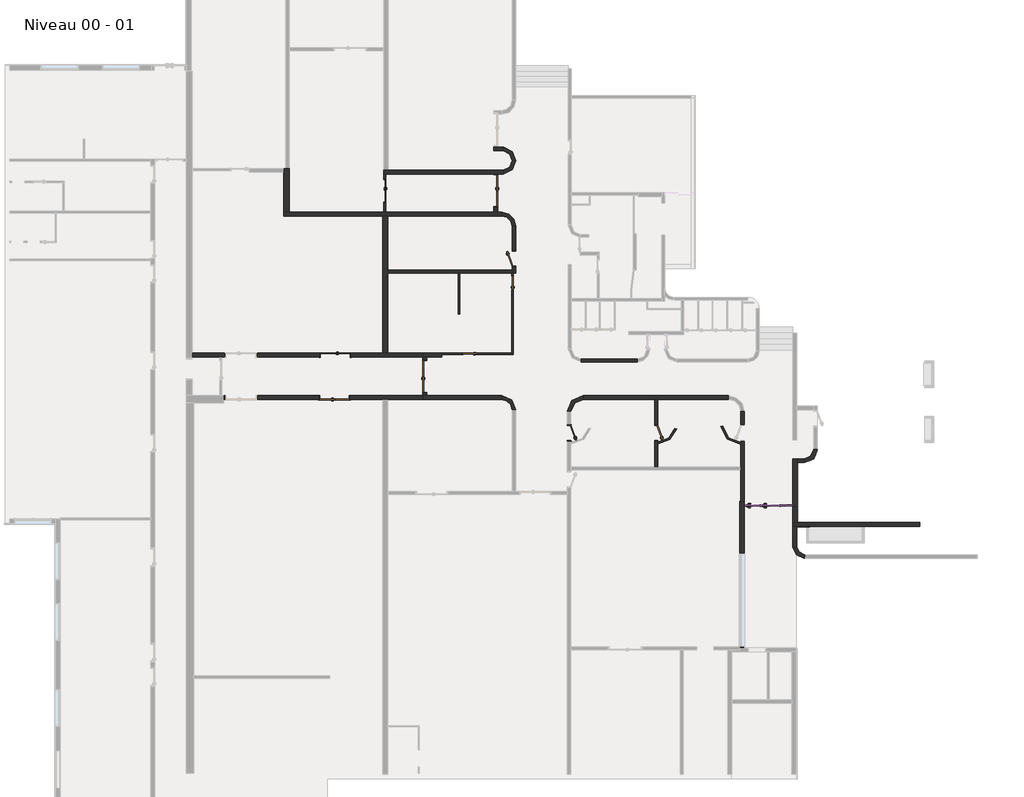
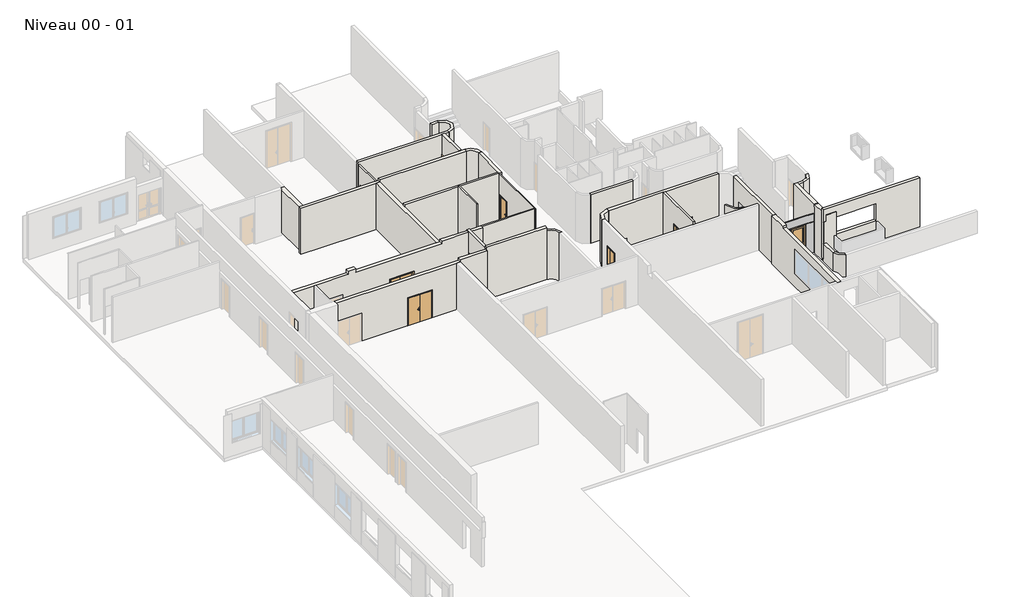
# One storey, part 5 of 8: 36 walls, 12 doors, 2 plates.
"""IFC4 building model written with IfcOpenShell, lengths in millimetres."""

from ifc_helpers import new_model, si_unit, point, frame, frame_2d, origin, place, context, project, spatial, polyline, circle_curve, trimmed, segment, composite_curve, outline, extrude, faceted_brep, transform, mapped, element, save
from components import door_d8181ab2, door_0234ae46, door_0ca0b57b, door_cb0b5031, door_c9c37e9f, double_r_1_23m_x_2_04m_7282032c, double_r_1_63m_x_2_04m_f9c3b69e, double_r_1_73m_x_2_10m_c7e8f5c4, plate_0f307522, plate_cfa962c9

model = new_model("IFC4")

# Units and contexts
model_context = context("Model", 3, world=origin())
ifc_project = project(units=[si_unit("LENGTHUNIT", "METRE", prefix="MILLI")], contexts=[model_context])

# Site, building, storey
site = spatial("IfcSite", under=ifc_project)
building = spatial("IfcBuilding", under=site)
storey = spatial("IfcBuildingStorey", under=building, Name="Niveau 00 - 01", Elevation=253.3082742)

# Doors
placement = place(None, origin())
door_shape = door_d8181ab2(model_context)
element("IfcDoor", 1, ObjectType="Simple vitrée : Simple vitrée", at=placement, inside=storey, context=model_context, shape_type="MappedRepresentation", body=[
    mapped(door_shape, transform((-5106.4539187, -19897.6865666, 253.3082742), x_axis=(-1.0, 0.0, 0.0), y_axis=(0.0, -1.0, 0.0), z_axis=(0.0, 0.0, 1.0))),
])
door_2_shape = door_0234ae46(model_context)
element("IfcDoor", 2, ObjectType="@_Int. Simple : @_PP (0.73m x 2.04m)", at=placement, inside=storey, context=model_context, shape_type="MappedRepresentation", body=[
    mapped(door_2_shape, transform((-18923.9891727, -7958.7412448, 253.3082742), x_axis=(0.0, 1.0, 0.0), y_axis=(-1.0, 0.0, 0.0), z_axis=(0.0, 0.0, 1.0))),
])
element("IfcDoor", 3, ObjectType="@_Int. Simple : @_PP (0.73m x 2.04m)", at=placement, inside=storey, context=model_context, shape_type="MappedRepresentation", body=[
    mapped(door_2_shape, transform((-21243.9891766, -11794.0543062, 253.3082742), x_axis=(-1.0, -1.2939471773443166e-11, 0.0), y_axis=(1.2939471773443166e-11, -1.0, 0.0), z_axis=(0.0, 0.0, 1.0))),
])
door_3_shape = door_0ca0b57b(model_context)
element("IfcDoor", 4, ObjectType="@_Int. Simple : @_PP (0.83m x 2.04m)", at=placement, inside=storey, context=model_context, shape_type="MappedRepresentation", body=[
    mapped(door_3_shape, transform((-18843.9891727, -6733.7412448, 253.3082742), x_axis=(0.0, -1.0, 0.0), y_axis=(1.0, 0.0, 0.0), z_axis=(0.0, 0.0, 1.0))),
])
element("IfcDoor", 5, ObjectType="@_Int. Simple : @_PP (0.83m x 2.04m)", at=placement, inside=storey, context=model_context, shape_type="MappedRepresentation", body=[
    mapped(door_3_shape, transform((-15897.6697002, -15984.0885527, 253.3082742), x_axis=(0.0, 1.0, 0.0), y_axis=(-1.0, 0.0, 0.0), z_axis=(0.0, 0.0, 1.0))),
])
door_4_shape = door_cb0b5031(model_context)
element("IfcDoor", 6, ObjectType="@_Int. Simple : @_PP (0.83m x 2.04m)", at=placement, inside=storey, context=model_context, shape_type="MappedRepresentation", body=[
    mapped(door_4_shape, transform((-11239.5180735, -15984.0885527, 253.3082742), x_axis=(0.0, 1.0, 0.0), y_axis=(-1.0, 0.0, 0.0), z_axis=(0.0, 0.0, 1.0))),
])
door_5_shape = door_c9c37e9f(model_context)
element("IfcDoor", 7, ObjectType="Simple vitrée : Simple vitrée", at=placement, inside=storey, context=model_context, shape_type="MappedRepresentation", body=[
    mapped(door_5_shape, transform((-6060.037753, -19897.6865666, 253.3082742), x_axis=(-1.0, 0.0, 0.0), y_axis=(0.0, -1.0, 0.0), z_axis=(0.0, 0.0, 1.0))),
])
double_r_1_23m_x_2_04m_shape = double_r_1_23m_x_2_04m_7282032c(model_context)
element("IfcDoor", 8, ObjectType="Double (R) : 1.23m x 2.04m", at=placement, inside=storey, context=model_context, shape_type="MappedRepresentation", body=[
    mapped(double_r_1_23m_x_2_04m_shape, transform((-25753.9891729, -3073.7412451, 253.3082742), x_axis=(0.0, 1.0, 0.0), y_axis=(-1.0, 0.0, 0.0), z_axis=(0.0, 0.0, 1.0))),
])
double_r_1_63m_x_2_04m_shape = double_r_1_63m_x_2_04m_f9c3b69e(model_context)
element("IfcDoor", 9, ObjectType="Double (R) : 1.63m x 2.04m", at=placement, inside=storey, context=model_context, shape_type="MappedRepresentation", body=[
    mapped(double_r_1_63m_x_2_04m_shape, transform((-28393.9891711, -11859.0543063, 253.3082742), x_axis=(1.0, 6.1910359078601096e-12, 0.0), y_axis=(-6.1910359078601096e-12, 1.0, 0.0), z_axis=(0.0, 0.0, 1.0))),
])
element("IfcDoor", 10, ObjectType="Double (R) : 1.63m x 2.04m", at=placement, inside=storey, context=model_context, shape_type="MappedRepresentation", body=[
    mapped(double_r_1_63m_x_2_04m_shape, transform((-28433.9891729, -14129.1151366, 253.3082742), x_axis=(-1.0, 0.0, 0.0), y_axis=(0.0, -1.0, 0.0), z_axis=(0.0, 0.0, 1.0))),
])
double_r_1_73m_x_2_10m_shape = double_r_1_73m_x_2_10m_c7e8f5c4(model_context)
element("IfcDoor", 11, ObjectType="Double (R) : 1.73m x 2.10m", at=placement, inside=storey, context=model_context, shape_type="MappedRepresentation", body=[
    mapped(double_r_1_73m_x_2_10m_shape, transform((-23607.6330901, -12994.0847214, 253.3082742), x_axis=(0.0, -1.0, 0.0), y_axis=(1.0, 0.0, 0.0), z_axis=(0.0, 0.0, 1.0))),
])
element("IfcDoor", 12, ObjectType="Double (R) : 1.73m x 2.10m", at=placement, inside=storey, context=model_context, shape_type="MappedRepresentation", body=[
    mapped(double_r_1_73m_x_2_10m_shape, transform((-19823.4631762, -3068.7412458, 253.3082742), x_axis=(0.0, 1.0, 0.0), y_axis=(-1.0, 0.0, 0.0), z_axis=(0.0, 0.0, 1.0))),
])

# Plates
plate_shape = plate_0f307522(model_context)
element("IfcPlate", 13, ObjectType="Panneau système : Vitré", at=placement, inside=storey, context=model_context, shape_type="MappedRepresentation", body=[
    mapped(plate_shape, transform((-4271.4539206, -19897.6865666, 303.3082742), x_axis=(-1.0, 0.0, 0.0), y_axis=(0.0, -1.0, 0.0), z_axis=(0.0, 0.0, 1.0))),
])
plate_2_shape = plate_cfa962c9(model_context)
element("IfcPlate", 14, ObjectType="Panneau système : Vitré", at=placement, inside=storey, context=model_context, shape_type="MappedRepresentation", body=[
    mapped(plate_2_shape, transform((-5225.0377549, -19897.6865666, 2631.6416076), x_axis=(-1.0, 0.0, 0.0), y_axis=(0.0, -1.0, 0.0), z_axis=(0.0, 0.0, 1.0))),
])

# Walls
element("IfcWall", 15, ObjectType="Mur EXE 200- Hach", at=placement, inside=storey, context=model_context, shape_type="SweptSolid", body=[
    extrude(outline(composite_curve([segment(polyline([(-3943.9891777, -22148.0711601), (-3743.9891777, -22126.3642288)]), True, "CONTINUOUS"), segment(trimmed(circle_curve(frame_2d((-3217.2166653, -22000.4141736)), 541.6204356), [point((-3743.9891777, -22126.3642288))], [point((-3316.4075603, -22532.8743717))], True, "CARTESIAN"), True, "CONTINUOUS"), segment(polyline([(-3316.4075603, -22532.8743717), (-3333.4187679, -22732.8743717)]), True, "CONTINUOUS"), segment(trimmed(circle_curve(frame_2d((-3217.2166653, -22000.4141736)), 741.6204356), [point((-3333.4187679, -22732.8743717))], [point((-3943.9891777, -22148.0711601))], False, "CARTESIAN"), True, "CONTINUOUS")], self_intersect=False)), frame((0.0, 0.0, -50.0), z_axis=(0.0, 0.0, 1.0), x_axis=(1.0, 0.0, 0.0)), (0.0, 0.0, 1.0), 1652.3356406),
])
element("IfcWall", 16, ObjectType="Mur EXE 200- Hach", at=placement, inside=storey, context=model_context, shape_type="SweptSolid", body=[
    extrude(outline(polyline([(-3943.9891777, -22148.0711601), (-3943.9891777, -21006.2530701), (-3743.9891777, -21006.2530701), (-3743.9891777, -22126.3642288), (-3943.9891777, -22148.0711601)])), frame((0.0, 0.0, 253.3082742), z_axis=(0.0, 0.0, 1.0), x_axis=(1.0, 0.0, 0.0)), (0.0, 0.0, 1.0), 1349.0273663),
])
element("IfcWall", 17, ObjectType="Mur EXE 40- Hach", at=placement, inside=storey, context=model_context, shape_type="Brep", body=[
    faceted_brep([(-3048.9891744, -21006.2530701, 463.3082742), (-3745.9483345, -21006.2530701, 463.3082742), (-3745.9483345, -21006.2530701, 1602.3356406), (-3943.9891777, -21006.2530701, 1602.3356406), (-3943.9891777, -21006.2530701, 3200.0), (-3745.9483345, -21006.2530701, 3200.0), (-3745.9483345, -21006.2530701, 3673.0838649), (-3048.9891744, -21006.2530701, 3673.0838649), (-3745.9483345, -21046.2530701, 463.3082742), (-3048.9891744, -21046.2530701, 463.3082742), (-3048.9891744, -21046.2530701, 3673.0838649), (-3745.9483345, -21046.2530701, 3673.0838649), (-3745.9483345, -21046.2530701, 3200.0), (-3943.9891777, -21046.2530701, 3200.0), (-3943.9891777, -21046.2530701, 1602.3356406), (-3745.9483345, -21046.2530701, 1602.3356406), (-3745.9483345, -21046.2530701, 1293.3082742), (-3745.9483345, -21046.2530701, 1093.3082742)], [[[0, 1, 2, 3, 4, 5, 6, 7]], [[8, 9, 10, 11, 12, 13, 14, 15, 16, 17]], [[1, 0, 9, 8]], [[2, 1, 8, 17, 16, 15]], [[7, 6, 11, 10]], [[0, 7, 10, 9]], [[3, 2, 15, 14]], [[4, 3, 14, 13]], [[5, 4, 13, 12]], [[6, 5, 12, 11]]]),
])
element("IfcWall", 18, ObjectType="@_Générique - Int. 100 mm", at=placement, inside=storey, context=model_context, shape_type="SweptSolid", body=[
    extrude(outline(polyline([(-2168.7412456, 3703.3082742), (-2168.7412456, 253.3082742), (-2423.7412451, 253.3082742), (-2423.7412451, 2328.3082742), (-3723.7412451, 2328.3082742), (-3723.7412451, 253.3082742), (-4218.7412446, 253.3082742), (-4218.7412446, 3703.3082742), (-2168.7412456, 3703.3082742)])), frame((-25803.9891729, 0.0, 0.0), z_axis=(1.0, 0.0, 0.0), x_axis=(0.0, 1.0, 0.0)), (0.0, 0.0, 1.0), 100.0),
])
element("IfcWall", 19, ObjectType="@_Générique - Int. 100 mm", at=placement, inside=storey, context=model_context, shape_type="SweptSolid", body=[
    extrude(outline(composite_curve([segment(polyline([(-10248.106745, -15776.0691401), (-10151.0071635, -15799.9787884)]), True, "CONTINUOUS"), segment(trimmed(circle_curve(frame_2d((-11180.262727, -15546.5365166)), 1060.0), [point((-10151.0071635, -15799.9787884))], [point((-11164.5180735, -16606.419579))], False, "CARTESIAN"), True, "CONTINUOUS"), segment(polyline([(-11164.5180735, -16606.419579), (-11164.5180735, -16506.4073964)]), True, "CONTINUOUS"), segment(trimmed(circle_curve(frame_2d((-11180.262727, -15546.5365166)), 960.0), [point((-11164.5180735, -16506.4073964))], [point((-10248.106745, -15776.0691401))], True, "CARTESIAN"), True, "CONTINUOUS")], self_intersect=False)), frame((0.0, 0.0, 253.3082742), z_axis=(0.0, 0.0, 1.0), x_axis=(1.0, 0.0, 0.0)), (0.0, 0.0, 1.0), 2350.0),
])
element("IfcWall", 20, ObjectType="@_Générique - Int. 100 mm", at=placement, inside=storey, context=model_context, shape_type="SweptSolid", body=[
    extrude(outline(composite_curve([segment(polyline([(-7785.877963, -15669.0656375), (-7686.3693182, -15659.1646474)]), True, "CONTINUOUS"), segment(trimmed(circle_curve(frame_2d((-6731.0863278, -15564.1151425)), 960.0), [point((-7686.3693182, -15659.1646474))], [point((-6731.0863278, -16524.1151425))], True, "CARTESIAN"), True, "CONTINUOUS"), segment(polyline([(-6731.0863278, -16524.1151425), (-6731.0863278, -16624.1151425)]), True, "CONTINUOUS"), segment(trimmed(circle_curve(frame_2d((-6731.0863278, -15564.1151425)), 1060.0), [point((-6731.0863278, -16624.1151425))], [point((-7785.877963, -15669.0656375))], False, "CARTESIAN"), True, "CONTINUOUS")], self_intersect=False)), frame((0.0, 0.0, 253.3082742), z_axis=(0.0, 0.0, 1.0), x_axis=(1.0, 0.0, 0.0)), (0.0, 0.0, 1.0), 2350.0),
])
element("IfcWall", 21, ObjectType="@_Générique - Int. 200 mm", at=placement, inside=storey, context=model_context, shape_type="Brep", body=[
    faceted_brep([(-23707.6330901, -14029.1151366, 253.3082742), (-23707.6330901, -14029.1151366, 3921.8727639), (-23707.6330901, -11749.0543062, 3921.8727639), (-23707.6330901, -11749.0543062, 3871.8727639), (-23707.6330901, -11959.0543062, 3871.8727639), (-23707.6330901, -11959.0543062, 253.3082742), (-23707.6330901, -11969.0543062, 253.3082742), (-23707.6330901, -12094.0847214, 253.3082742), (-23707.6330901, -12094.0847214, 2388.3082742), (-23707.6330901, -13894.0847214, 2388.3082742), (-23707.6330901, -13894.0847214, 253.3082742), (-23507.6330901, -14029.1151366, 3921.8727639), (-23507.6330901, -14029.1151366, 253.3082742), (-23507.6330901, -13894.0847214, 253.3082742), (-23507.6330901, -13894.0847214, 2388.3082742), (-23507.6330901, -12094.0847214, 2388.3082742), (-23507.6330901, -12094.0847214, 253.3082742), (-23507.6330901, -11959.0543062, 253.3082742), (-23507.6330901, -11959.0543062, 3871.8727639), (-23507.6330901, -11749.0543062, 3871.8727639), (-23507.6330901, -11749.0543062, 3921.8727639)], [[[0, 1, 2, 3, 4, 5, 6, 7, 8, 9, 10]], [[11, 12, 13, 14, 15, 16, 17, 18, 19, 20]], [[12, 0, 10, 13]], [[5, 17, 16, 7, 6]], [[1, 0, 12, 11]], [[2, 1, 11, 20]], [[9, 14, 13, 10]], [[15, 8, 7, 16]], [[8, 15, 14, 9]], [[19, 18, 4, 3]], [[17, 5, 4, 18]], [[2, 20, 19, 3]]]),
])
element("IfcWall", 22, ObjectType="@_Générique - Int. 100 mm", at=placement, inside=storey, context=model_context, shape_type="SweptSolid", body=[
    extrude(outline(polyline([(-21829.1642567, -9653.7412448), (-21829.1642567, -7468.7412448), (-21729.1642567, -7468.7412448), (-21729.1642567, -9653.7412448), (-21829.1642567, -9653.7412448)])), frame((0.0, 0.0, 253.3082742), z_axis=(0.0, 0.0, 1.0), x_axis=(1.0, 0.0, 0.0)), (0.0, 0.0, 1.0), 3668.5644896),
])
element("IfcWall", 23, ObjectType="Ext. Voile BA 150", at=placement, inside=storey, context=model_context, shape_type="SweptSolid", body=[
    extrude(outline(polyline([(-15243.9891693, -12079.1151389), (-12247.9692093, -12079.1151389), (-12247.9692093, -12229.1151389), (-15243.9891693, -12229.1151389), (-15243.9891693, -12079.1151389)])), frame((0.0, 0.0, 253.3082742), z_axis=(0.0, 0.0, 1.0), x_axis=(1.0, 0.0, 0.0)), (0.0, 0.0, 1.0), 3618.5644896),
])
element("IfcWall", 24, ObjectType="Ext. Voile BA 150", at=placement, inside=storey, context=model_context, shape_type="Brep", body=[
    faceted_brep([(-11314.5180735, -14229.1151361, 3871.8727639), (-11314.5180735, -14229.1151361, 253.3082742), (-11314.5180735, -15569.0885527, 253.3082742), (-11314.5180735, -15569.0885527, 2328.3082742), (-11314.5180735, -16469.0885527, 2328.3082742), (-11314.5180735, -16469.0885527, 253.3082742), (-11314.5180735, -17843.1151165, 253.3082742), (-11314.5180735, -17843.1151165, 3871.8727639), (-11164.5180735, -14229.1151361, 253.3082742), (-11164.5180735, -14229.1151361, 3871.8727639), (-11164.5180735, -17843.1151165, 3871.8727639), (-11164.5180735, -17843.1151165, 253.3082742), (-11164.5180735, -16606.419579, 253.3082742), (-11164.5180735, -16506.4073964, 253.3082742), (-11164.5180735, -16469.0885527, 253.3082742), (-11164.5180735, -16469.0885527, 2328.3082742), (-11164.5180735, -15569.0885527, 2328.3082742), (-11164.5180735, -15569.0885527, 253.3082742)], [[[0, 1, 2, 3, 4, 5, 6, 7]], [[8, 9, 10, 11, 12, 13, 14, 15, 16, 17]], [[1, 8, 17, 2]], [[11, 6, 5, 14, 13, 12]], [[1, 0, 9, 8]], [[7, 6, 11, 10]], [[0, 7, 10, 9]], [[16, 3, 2, 17]], [[3, 16, 15, 4]], [[4, 15, 14, 5]]]),
])
element("IfcWall", 25, ObjectType="Ext. Voile BA 150", at=placement, inside=storey, context=model_context, shape_type="Brep", body=[
    faceted_brep([(-25593.9891711, -7468.7412448, 3871.8727639), (-25593.9891711, -7468.7412448, 253.3082742), (-21829.1642567, -7468.7412448, 253.3082742), (-21729.1642567, -7468.7412448, 253.3082742), (-18958.9891727, -7468.7412448, 253.3082742), (-18943.9891727, -7468.7412448, 253.3082742), (-18943.9891727, -7468.7412448, 3871.8727639), (-18958.9891727, -7468.7412448, 3871.8727639), (-25593.9891711, -7318.7412448, 253.3082742), (-25593.9891711, -7318.7412448, 3871.8727639), (-18943.9891727, -7318.7412448, 3871.8727639), (-18943.9891727, -7318.7412448, 253.3082742)], [[[0, 1, 2, 3, 4, 5, 6, 7]], [[8, 9, 10, 11]], [[1, 8, 11, 5, 4, 3, 2]], [[1, 0, 9, 8]], [[9, 0, 7, 6, 10]], [[6, 5, 11, 10]]]),
])
element("IfcWall", 26, ObjectType="Ext. Voile BA 200", at=placement, inside=storey, context=model_context, shape_type="Brep", body=[
    faceted_brep([(-31151.1142183, -4418.7412446, 253.3082742), (-25843.9891711, -4418.7412446, 253.3082742), (-25593.9891711, -4418.7412446, 253.3082742), (-19493.9891721, -4418.7412446, 253.3082742), (-19493.9891721, -4418.7412446, 3871.8727639), (-25593.9891731, -4418.7412446, 3871.8727639), (-25593.9891731, -4418.7412446, 3703.3082742), (-25843.9891711, -4418.7412446, 3703.3082742), (-31151.1142183, -4418.7412446, 3703.3082742), (-31151.1142183, -4218.7412446, 253.3082742), (-31151.1142183, -4218.7412446, 466.6165485), (-31151.1142183, -4218.7412446, 3653.3082742), (-31151.1142183, -4218.7412446, 3703.3082742), (-25803.9891729, -4218.7412446, 3703.3082742), (-25703.9891729, -4218.7412446, 3703.3082742), (-25593.9891731, -4218.7412446, 3703.3082742), (-25593.9891731, -4218.7412446, 3871.8727639), (-19493.9891721, -4218.7412446, 3871.8727639), (-19493.9891721, -4218.7412446, 253.3082742), (-19723.4631762, -4218.7412446, 253.3082742), (-19923.4631762, -4218.7412446, 253.3082742), (-25703.9891729, -4218.7412446, 253.3082742), (-25803.9891729, -4218.7412446, 253.3082742)], [[[0, 1, 2, 3, 4, 5, 6, 7, 8]], [[9, 10, 11, 12, 13, 14, 15, 16, 17, 18, 19, 20, 21, 22]], [[3, 2, 1, 0, 9, 22, 21, 20, 19, 18]], [[4, 3, 18, 17]], [[0, 8, 12, 11, 10, 9]], [[5, 4, 17, 16]], [[5, 16, 15, 6]], [[8, 7, 6, 15, 14, 13, 12]]]),
])
element("IfcWall", 27, ObjectType="Ext. Voile BA 200", at=placement, inside=storey, context=model_context, shape_type="Brep", body=[
    faceted_brep([(-25803.9891729, -2168.7412456, 253.3082742), (-25703.9891729, -2168.7412456, 253.3082742), (-19404.2357811, -2168.7412458, 253.3082742), (-19404.2357811, -2168.7412458, 3871.8727639), (-25803.9891729, -2168.7412456, 3871.8727639), (-25803.9891729, -2168.7412456, 3703.3082742), (-25803.9891729, -1968.7412456, 253.3082742), (-25803.9891729, -1968.7412456, 3703.3082742), (-25803.9891729, -1968.7412456, 3871.8727639), (-19413.2254305, -1968.7412458, 3871.8727639), (-19413.2254305, -1968.7412458, 253.3082742), (-25553.9891729, -1968.7412456, 253.3082742)], [[[0, 1, 2, 3, 4, 5]], [[6, 7, 8, 9, 10, 11]], [[2, 1, 0, 6, 11, 10]], [[0, 5, 4, 8, 7, 6]], [[3, 2, 10, 9]], [[4, 3, 9, 8]]]),
])
element("IfcWall", 28, ObjectType="Ext. Voile BA 200", at=placement, inside=storey, context=model_context, shape_type="SweptSolid", body=[
    extrude(outline(composite_curve([segment(polyline([(-18743.9891719, -14779.1151404), (-18943.9891719, -14779.1151406)]), True, "CONTINUOUS"), segment(trimmed(circle_curve(frame_2d((-19493.9891721, -14779.115141)), 550.0000002), [point((-18943.9891719, -14779.1151406))], [point((-19493.9891725, -14229.1151409))], True, "CARTESIAN"), True, "CONTINUOUS"), segment(polyline([(-19493.9891725, -14229.1151409), (-19493.9891726, -14029.1151409)]), True, "CONTINUOUS"), segment(trimmed(circle_curve(frame_2d((-19493.9891721, -14779.115141)), 750.0000002), [point((-19493.9891726, -14029.1151409))], [point((-18743.9891719, -14779.1151404))], False, "CARTESIAN"), True, "CONTINUOUS")], self_intersect=False)), frame((0.0, 0.0, 253.3082742), z_axis=(0.0, 0.0, 1.0), x_axis=(1.0, 0.0, 0.0)), (0.0, 0.0, 1.0), 3618.5644896),
])
element("IfcWall", 29, ObjectType="Ext. Voile BA 200", at=placement, inside=storey, context=model_context, shape_type="Brep", body=[
    faceted_brep([(-18943.9891727, -7468.7412448, 253.3082742), (-18943.9891727, -7468.7412448, 3871.8727639), (-18943.9891727, -7318.7412448, 3871.8727639), (-18943.9891727, -4968.7694262, 3871.8727639), (-18943.9891727, -4968.7694262, 253.3082742), (-18943.9891727, -6248.7412448, 253.3082742), (-18943.9891727, -6248.7412448, 2328.3082742), (-18943.9891727, -7148.7412448, 2328.3082742), (-18943.9891727, -7148.7412448, 253.3082742), (-18943.9891727, -7318.7412448, 253.3082742), (-18743.9891727, -7468.7412448, 3871.8727639), (-18743.9891727, -7468.7412448, 253.3082742), (-18743.9891727, -7148.7412448, 253.3082742), (-18743.9891727, -7148.7412448, 2328.3082742), (-18743.9891727, -6248.7412448, 2328.3082742), (-18743.9891727, -6248.7412448, 253.3082742), (-18743.9891727, -4968.7694262, 253.3082742), (-18743.9891727, -4968.7694262, 3871.8727639), (-18888.9891727, -7468.7412448, 253.3082742), (-18888.9891727, -7468.7412448, 3871.8727639)], [[[0, 1, 2, 3, 4, 5, 6, 7, 8, 9]], [[10, 11, 12, 13, 14, 15, 16, 17]], [[4, 16, 15, 5]], [[11, 18, 0, 9, 8, 12]], [[1, 0, 18, 11, 10, 19]], [[4, 3, 17, 16]], [[7, 13, 12, 8]], [[13, 7, 6, 14]], [[14, 6, 5, 15]], [[3, 2, 1, 19, 10, 17]]]),
])
element("IfcWall", 30, ObjectType="Ext. Voile BA 200", at=placement, inside=storey, context=model_context, shape_type="SweptSolid", body=[
    extrude(outline(composite_curve([segment(polyline([(-18743.9891728, -4968.7737618), (-18943.9891726, -4968.7650907)]), True, "CONTINUOUS"), segment(trimmed(circle_curve(frame_2d((-19493.9891721, -4968.7412452)), 550.0), [point((-18943.9891726, -4968.7650907))], [point((-19493.9891721, -4418.7412452))], True, "CARTESIAN"), True, "CONTINUOUS"), segment(polyline([(-19493.9891721, -4418.7412452), (-19493.9891722, -4218.7412452)]), True, "CONTINUOUS"), segment(trimmed(circle_curve(frame_2d((-19493.9891721, -4968.7412452)), 750.0), [point((-19493.9891722, -4218.7412452))], [point((-18743.9891728, -4968.7737618))], False, "CARTESIAN"), True, "CONTINUOUS")], self_intersect=False)), frame((0.0, 0.0, 253.3082742), z_axis=(0.0, 0.0, 1.0), x_axis=(1.0, 0.0, 0.0)), (0.0, 0.0, 1.0), 3618.5644896),
])
element("IfcWall", 31, ObjectType="Ext. Voile BA 200", at=placement, inside=storey, context=model_context, shape_type="SweptSolid", body=[
    extrude(outline(composite_curve([segment(polyline([(-19408.571564, -934.1864447), (-19398.7535908, -734.1864447)]), True, "CONTINUOUS"), segment(trimmed(circle_curve(frame_2d((-19463.989174, -1451.2250209)), 720.0000007), [point((-19398.7535908, -734.1864447))], [point((-19404.2357811, -2168.7412458))], False, "CARTESIAN"), True, "CONTINUOUS"), segment(polyline([(-19404.2357811, -2168.7412458), (-19413.2254305, -1968.7412458)]), True, "CONTINUOUS"), segment(trimmed(circle_curve(frame_2d((-19463.989174, -1451.2250209)), 520.0000007), [point((-19413.2254305, -1968.7412458))], [point((-19408.571564, -934.1864447))], True, "CARTESIAN"), True, "CONTINUOUS")], self_intersect=False)), frame((0.0, 0.0, 253.3082742), z_axis=(0.0, 0.0, 1.0), x_axis=(1.0, 0.0, 0.0)), (0.0, 0.0, 1.0), 3618.5644896),
])
element("IfcWall", 32, ObjectType="Ext. Voile BA 200", at=placement, inside=storey, context=model_context, shape_type="Brep", body=[
    faceted_brep([(-19398.7535908, -734.1864447, 253.3082742), (-19723.4631762, -734.1864447, 253.3082742), (-19923.4631762, -734.1864447, 253.3082742), (-19923.4631762, -734.1864447, 3653.3082742), (-19923.4631762, -734.1864447, 3871.8727639), (-19398.7535908, -734.1864447, 3871.8727639), (-19408.571564, -934.1864447, 253.3082742), (-19408.571564, -934.1864447, 3871.8727639), (-19923.4631762, -934.1864447, 3871.8727639), (-19923.4631762, -934.1864447, 253.3082742)], [[[0, 1, 2, 3, 4, 5]], [[6, 7, 8, 9]], [[2, 1, 0, 6, 9]], [[0, 5, 7, 6]], [[4, 3, 2, 9, 8]], [[5, 4, 8, 7]]]),
])
element("IfcWall", 33, ObjectType="Ext. Voile BA 200", at=placement, inside=storey, context=model_context, shape_type="Brep", body=[
    faceted_brep([(-7381.086328, -14029.1151361, 253.3082742), (-15147.6697027, -14029.1151361, 253.3082742), (-15147.6697027, -14029.1151361, 3871.8727639), (-7381.086328, -14029.1151361, 3871.8727639), (-7381.086328, -14229.1151361, 253.3082742), (-7381.086328, -14229.1151361, 3871.8727639), (-11164.5180735, -14229.1151361, 3871.8727639), (-11314.5180735, -14229.1151361, 3871.8727639), (-15147.6697027, -14229.1151361, 3871.8727639), (-15147.6697027, -14229.1151361, 253.3082742), (-11314.5180735, -14229.1151361, 253.3082742), (-11164.5180735, -14229.1151361, 253.3082742)], [[[0, 1, 2, 3]], [[4, 5, 6, 7, 8, 9, 10, 11]], [[1, 0, 4, 11, 10, 9]], [[2, 1, 9, 8]], [[0, 3, 5, 4]], [[3, 2, 8, 7, 6, 5]]]),
])
element("IfcWall", 34, ObjectType="Ext. Voile BA 200", at=placement, inside=storey, context=model_context, shape_type="SweptSolid", body=[
    extrude(outline(composite_curve([segment(polyline([(-15797.6697027, -14879.1151357), (-15997.6697027, -14879.1151357)]), True, "CONTINUOUS"), segment(trimmed(circle_curve(frame_2d((-15147.6697027, -14879.1151357)), 850.0), [point((-15997.6697027, -14879.1151357))], [point((-15147.6697027, -14029.1151357))], False, "CARTESIAN"), True, "CONTINUOUS"), segment(polyline([(-15147.6697027, -14029.1151357), (-15147.6697027, -14229.1151357)]), True, "CONTINUOUS"), segment(trimmed(circle_curve(frame_2d((-15147.6697027, -14879.1151357)), 650.0), [point((-15147.6697027, -14229.1151357))], [point((-15797.6697027, -14879.1151357))], True, "CARTESIAN"), True, "CONTINUOUS")], self_intersect=False)), frame((0.0, 0.0, 253.3082742), z_axis=(0.0, 0.0, 1.0), x_axis=(1.0, 0.0, 0.0)), (0.0, 0.0, 1.0), 3618.5644896),
])
element("IfcWall", 35, ObjectType="Ext. Voile BA 200", at=placement, inside=storey, context=model_context, shape_type="Brep", body=[
    faceted_brep([(-6731.0863278, -19676.5579007, 253.3082742), (-6731.0863278, -19676.5579007, 3871.8727639), (-6731.0863278, -14879.1151425, 3871.8727639), (-6731.0863278, -14879.1151425, 253.3082742), (-6731.0863278, -15569.0885527, 253.3082742), (-6731.0863278, -15569.0885527, 2328.3082742), (-6731.0863278, -16469.0885527, 2328.3082742), (-6731.0863278, -16469.0885527, 253.3082742), (-6731.0863278, -16524.1151425, 253.3082742), (-6731.0863278, -16624.1151425, 253.3082742), (-6731.0863278, -17843.1151165, 253.3082742), (-6731.0863278, -17993.1151165, 253.3082742), (-6531.0863278, -19676.5579007, 3871.8727639), (-6531.0863278, -19676.5579007, 253.3082742), (-6531.0863278, -16469.0885527, 253.3082742), (-6531.0863278, -16469.0885527, 2328.3082742), (-6531.0863278, -15569.0885527, 2328.3082742), (-6531.0863278, -15569.0885527, 253.3082742), (-6531.0863278, -14879.1151425, 253.3082742), (-6531.0863278, -14879.1151425, 3871.8727639)], [[[0, 1, 2, 3, 4, 5, 6, 7, 8, 9, 10, 11]], [[12, 13, 14, 15, 16, 17, 18, 19]], [[3, 18, 17, 4]], [[13, 0, 11, 10, 9, 8, 7, 14]], [[1, 0, 13, 12]], [[3, 2, 19, 18]], [[16, 5, 4, 17]], [[5, 16, 15, 6]], [[6, 15, 14, 7]], [[2, 1, 12, 19]]]),
])
element("IfcWall", 36, ObjectType="Ext. Voile BA 200", at=placement, inside=storey, context=model_context, shape_type="SweptSolid", body=[
    extrude(outline(polyline([(-3332.6697103, -17606.0422506), (-3693.9891777, -17606.0422506), (-3693.9891777, -17406.0422506), (-3332.6697103, -17406.0422506), (-3332.6697103, -17606.0422506)])), frame((0.0, 0.0, 253.3082742), z_axis=(0.0, 0.0, 1.0), x_axis=(1.0, 0.0, 0.0)), (0.0, 0.0, 1.0), 3618.5644896),
])
element("IfcWall", 37, ObjectType="Ext. Voile BA 200", at=placement, inside=storey, context=model_context, shape_type="SweptSolid", body=[
    extrude(outline(composite_curve([segment(polyline([(-2832.6697104, -16906.0422493), (-2632.6697104, -16906.0422493)]), True, "CONTINUOUS"), segment(trimmed(circle_curve(frame_2d((-3332.6697103, -16906.0422493)), 699.9999999), [point((-2632.6697104, -16906.0422493))], [point((-3332.6697103, -17606.0422492))], False, "CARTESIAN"), True, "CONTINUOUS"), segment(polyline([(-3332.6697103, -17606.0422492), (-3332.6697103, -17406.0422492)]), True, "CONTINUOUS"), segment(trimmed(circle_curve(frame_2d((-3332.6697103, -16906.0422493)), 499.9999999), [point((-3332.6697103, -17406.0422492))], [point((-2832.6697104, -16906.0422493))], True, "CARTESIAN"), True, "CONTINUOUS")], self_intersect=False)), frame((0.0, 0.0, 253.3082742), z_axis=(0.0, 0.0, 1.0), x_axis=(1.0, 0.0, 0.0)), (0.0, 0.0, 1.0), 3618.5644896),
])
element("IfcWall", 38, ObjectType="Ext. Voile BA 200", at=placement, inside=storey, context=model_context, shape_type="SweptSolid", body=[
    extrude(outline(polyline([(-4218.7412446, 3921.8727639), (-2168.7412458, 3921.8727639), (-2168.7412458, 2388.3082742), (-3968.7412458, 2388.3082742), (-3968.7412458, 253.3082742), (-4218.7412446, 253.3082742), (-4218.7412446, 3921.8727639)])), frame((-19923.4631762, 0.0, 0.0), z_axis=(1.0, 0.0, 0.0), x_axis=(0.0, 1.0, 0.0)), (0.0, 0.0, 1.0), 200.0),
])
element("IfcWall", 39, ObjectType="Ext. Voile BA 200", at=placement, inside=storey, context=model_context, shape_type="Brep", body=[
    faceted_brep([(-23707.6330901, -14229.1151366, 253.3082742), (-19493.9891725, -14229.1151366, 253.3082742), (-19493.9891725, -14229.1151366, 3871.8727639), (-19493.9891725, -14229.1151366, 4121.8727639), (-23707.6330901, -14229.1151366, 4121.8727639), (-23707.6330901, -14029.1151366, 253.3082742), (-23707.6330901, -14029.1151366, 4121.8727639), (-19493.9891725, -14029.1151366, 4121.8727639), (-19493.9891725, -14029.1151366, 3871.8727639), (-19493.9891725, -14029.1151366, 253.3082742)], [[[0, 1, 2, 3, 4]], [[5, 6, 7, 8, 9]], [[1, 0, 5, 9]], [[3, 2, 1, 9, 8, 7]], [[4, 3, 7, 6]], [[0, 4, 6, 5]]]),
])
element("IfcWall", 40, ObjectType="Ext. Voile BA 200", at=placement, inside=storey, context=model_context, shape_type="Brep", body=[
    faceted_brep([(-23707.6330901, -11959.0543062, 253.3082742), (-23507.6330901, -11959.0543062, 253.3082742), (-22708.9891766, -11959.0543062, 253.3082742), (-22708.9891766, -11959.0543062, 3871.8727639), (-23507.6330901, -11959.0543062, 3871.8727639), (-23707.6330901, -11959.0543062, 3871.8727639), (-23707.6330901, -11759.0543062, 253.3082742), (-23707.6330901, -11759.0543062, 3871.8727639), (-22708.9891766, -11759.0543062, 3871.8727639), (-22708.9891766, -11759.0543062, 253.3082742)], [[[0, 1, 2, 3, 4, 5]], [[6, 7, 8, 9]], [[2, 1, 0, 6, 9]], [[3, 2, 9, 8]], [[0, 5, 7, 6]], [[5, 4, 3, 8, 7]]]),
])
element("IfcWall", 41, ObjectType="Ext. Voile BA 200 Brique", at=placement, inside=storey, context=model_context, shape_type="Brep", body=[
    faceted_brep([(-23707.6330901, -14239.1151366, 253.3082742), (-23707.6330901, -14239.1151366, 3871.8727639), (-25593.9891731, -14239.1151366, 3871.8727639), (-25593.9891731, -14239.1151366, 3703.3082742), (-25843.9891729, -14239.1151366, 3703.3082742), (-34345.4589892, -14239.1151366, 3703.3082742), (-34345.4589892, -14239.1151366, 253.3082742), (-34260.4589892, -14239.1151366, 253.3082742), (-34260.4589892, -14239.1151366, 2328.3082742), (-32560.4589892, -14239.1151366, 2328.3082742), (-32560.4589892, -14239.1151366, 253.3082742), (-29283.9891729, -14239.1151366, 253.3082742), (-29283.9891729, -14239.1151366, 2328.3082742), (-27583.9891729, -14239.1151366, 2328.3082742), (-27583.9891729, -14239.1151366, 253.3082742), (-25843.9891729, -14239.1151366, 253.3082742), (-25593.9891729, -14239.1151366, 253.3082742), (-23707.6330901, -14019.1151366, 3871.8727639), (-23707.6330901, -14019.1151366, 253.3082742), (-27583.9891729, -14019.1151366, 253.3082742), (-27583.9891729, -14019.1151366, 2328.3082742), (-29283.9891729, -14019.1151366, 2328.3082742), (-29283.9891729, -14019.1151366, 253.3082742), (-32560.4589892, -14019.1151366, 253.3082742), (-32560.4589892, -14019.1151366, 2328.3082742), (-34260.4589892, -14019.1151366, 2328.3082742), (-34260.4589892, -14019.1151366, 253.3082742), (-34345.4589892, -14019.1151366, 253.3082742), (-34345.4589892, -14019.1151366, 3703.3082742), (-25593.9891731, -14019.1151366, 3703.3082742), (-25593.9891731, -14019.1151366, 3871.8727639)], [[[0, 1, 2, 3, 4, 5, 6, 7, 8, 9, 10, 11, 12, 13, 14, 15, 16]], [[17, 18, 19, 20, 21, 22, 23, 24, 25, 26, 27, 28, 29, 30]], [[18, 0, 16, 15, 14, 19]], [[6, 27, 26, 7]], [[22, 11, 10, 23]], [[1, 0, 18, 17]], [[6, 5, 28, 27]], [[21, 12, 11, 22]], [[12, 21, 20, 13]], [[13, 20, 19, 14]], [[25, 8, 7, 26]], [[8, 25, 24, 9]], [[9, 24, 23, 10]], [[5, 4, 3, 29, 28]], [[2, 1, 17, 30]], [[30, 29, 3, 2]]]),
])
element("IfcWall", 42, ObjectType="Ext. Voile BA 200 Brique", at=placement, inside=storey, context=model_context, shape_type="Brep", body=[
    faceted_brep([(-36043.9891745, -11969.0543063, 3703.3082742), (-36043.9891745, -11969.0543063, 253.3082742), (-34565.4589892, -11969.0543063, 253.3082742), (-34465.4589892, -11969.0543063, 253.3082742), (-34285.4589892, -11969.0543063, 253.3082742), (-34285.4589892, -11969.0543063, 2328.3082742), (-32585.4589892, -11969.0543063, 2328.3082742), (-32585.4589892, -11969.0543063, 253.3082742), (-29243.9891711, -11969.0543063, 253.3082742), (-29243.9891711, -11969.0543063, 2328.3082742), (-27543.9891711, -11969.0543063, 2328.3082742), (-27543.9891711, -11969.0543063, 253.3082742), (-23707.6330901, -11969.0543062, 253.3082742), (-23707.6330901, -11969.0543062, 3871.8727639), (-25593.9891731, -11969.0543063, 3871.8727639), (-25593.9891731, -11969.0543063, 3703.3082742), (-31656.3128908, -11969.0543063, 3703.3082742), (-31656.3128908, -11969.0543063, 3953.3082742), (-32168.9891696, -11969.0543063, 3953.3082742), (-32168.9891696, -11969.0543063, 3703.3082742), (-34465.4589892, -11969.0543063, 3703.3082742), (-34565.4589892, -11969.0543063, 3703.3082742), (-36043.9891745, -11749.0543063, 253.3082742), (-36043.9891745, -11749.0543063, 3703.3082742), (-32168.9891696, -11749.0543063, 3703.3082742), (-32168.9891696, -11749.0543063, 3953.3082742), (-31656.3128908, -11749.0543063, 3953.3082742), (-31656.3128908, -11749.0543063, 3703.3082742), (-25843.9891711, -11749.0543063, 3703.3082742), (-25593.9891731, -11749.0543063, 3703.3082742), (-25593.9891731, -11749.0543063, 3871.8727639), (-23707.6330901, -11749.0543062, 3871.8727639), (-23707.6330901, -11749.0543062, 253.3082742), (-25593.9891711, -11749.0543063, 253.3082742), (-25843.9891711, -11749.0543063, 253.3082742), (-27543.9891711, -11749.0543063, 253.3082742), (-27543.9891711, -11749.0543063, 2328.3082742), (-29243.9891711, -11749.0543063, 2328.3082742), (-29243.9891711, -11749.0543063, 253.3082742), (-32585.4589892, -11749.0543063, 253.3082742), (-32585.4589892, -11749.0543063, 2328.3082742), (-34285.4589892, -11749.0543063, 2328.3082742), (-34285.4589892, -11749.0543063, 253.3082742), (-23707.6330901, -11959.0543062, 253.3082742), (-32168.9891696, -11879.0543063, 3703.3082742), (-31656.3128908, -11879.0543063, 3703.3082742)], [[[0, 1, 2, 3, 4, 5, 6, 7, 8, 9, 10, 11, 12, 13, 14, 15, 16, 17, 18, 19, 20, 21]], [[22, 23, 24, 25, 26, 27, 28, 29, 30, 31, 32, 33, 34, 35, 36, 37, 38, 39, 40, 41, 42]], [[1, 22, 42, 4, 3, 2]], [[38, 8, 7, 39]], [[32, 43, 12, 11, 35, 34, 33]], [[22, 1, 0, 23]], [[13, 12, 43, 32, 31]], [[10, 36, 35, 11]], [[36, 10, 9, 37]], [[37, 9, 8, 38]], [[41, 5, 4, 42]], [[5, 41, 40, 6]], [[6, 40, 39, 7]], [[26, 25, 18, 17]], [[30, 29, 15, 14]], [[18, 25, 24, 44, 19]], [[26, 17, 16, 45, 27]], [[13, 31, 30, 14]], [[16, 15, 29, 28, 27, 45]], [[24, 23, 0, 21, 20, 19, 44]]]),
])
element("IfcWall", 43, ObjectType="Ext. Voile BA 250", at=placement, inside=storey, context=model_context, shape_type="Brep", body=[
    faceted_brep([(-6531.0863322, -27517.519909, 253.3082742), (-6531.0863322, -19676.5579007, 253.3082742), (-6531.0863322, -19676.5579007, 3871.8727639), (-6531.0863322, -19900.1709526, 3871.8727639), (-6531.0863322, -20050.1709526, 3871.8727639), (-6531.0863322, -20966.25307, 3871.8727639), (-6531.0863322, -20966.25307, 3703.3082742), (-6531.0863322, -27619.0543067, 3703.3082742), (-6531.0863322, -27619.0543067, 3701.8727639), (-6531.0863322, -27517.519909, 3701.8727639), (-6531.0863322, -22466.9279388, 3053.3082742), (-6531.0863322, -22466.9279388, 1233.3082742), (-6531.0863322, -27466.9279388, 1233.3082742), (-6531.0863322, -27466.9279388, 3053.3082742), (-6781.0863322, -19676.5579007, 253.3082742), (-6781.0863322, -27469.0543067, 253.3082742), (-6781.0863322, -27517.519909, 253.3082742), (-6781.0863322, -27517.519909, 3701.8727639), (-6781.0863322, -27619.0543067, 3701.8727639), (-6781.0863322, -27619.0543067, 3703.3082742), (-6781.0863322, -27469.0543067, 3703.3082742), (-6781.0863322, -20966.25307, 3703.3082742), (-6781.0863322, -20966.25307, 3871.8727639), (-6781.0863322, -19676.5579007, 3871.8727639), (-6781.0863322, -22466.9279388, 1253.3082742), (-6781.0863322, -22466.9279388, 3053.3082742), (-6781.0863322, -27466.9279388, 3053.3082742), (-6781.0863322, -27466.9279388, 1253.3082742), (-6731.0863278, -19676.5579007, 253.3082742), (-6731.0863278, -19676.5579007, 3871.8727639), (-6751.0863322, -22466.9279388, 1253.3082742), (-6751.0863322, -22466.9279388, 1218.3082742), (-6571.0863322, -22466.9279388, 1218.3082742), (-6571.0863322, -22466.9279388, 1233.3082742), (-6571.0863322, -27466.9279388, 1233.3082742), (-6571.0863322, -27466.9279388, 1218.3082742), (-6751.0863322, -27466.9279388, 1218.3082742), (-6751.0863322, -27466.9279388, 1253.3082742)], [[[0, 1, 2, 3, 4, 5, 6, 7, 8, 9], [10, 11, 12, 13]], [[14, 15, 16, 17, 18, 19, 20, 21, 22, 23], [24, 25, 26, 27]], [[1, 0, 16, 15, 14, 28]], [[2, 1, 28, 14, 23, 29]], [[24, 30, 31, 32, 33, 11, 10, 25]], [[26, 13, 12, 34, 35, 36, 37, 27]], [[30, 24, 27, 37]], [[31, 30, 37, 36]], [[32, 31, 36, 35]], [[33, 32, 35, 34]], [[11, 33, 34, 12]], [[25, 10, 13, 26]], [[7, 6, 21, 20, 19]], [[2, 29, 23, 22, 5, 4, 3]], [[22, 21, 6, 5]], [[18, 17, 9, 8]], [[16, 0, 9, 17]], [[7, 19, 18, 8]]]),
])
element("IfcWall", 44, ObjectType="Ext. Voile BA 250", at=placement, inside=storey, context=model_context, shape_type="Brep", body=[
    faceted_brep([(-3693.9891777, -20806.2530701, 253.3082742), (-3693.9891777, -19975.1709526, 253.3082742), (-3693.9891777, -19975.1709526, 3653.3082742), (-3693.9891777, -19900.1709526, 3653.3082742), (-3693.9891777, -19900.1709526, 3871.8727639), (-3693.9891777, -20806.2530701, 3871.8727639), (-3943.9891777, -20806.2530701, 253.3082742), (-3943.9891777, -20806.2530701, 3871.8727639), (-3943.9891777, -20050.1709526, 3871.8727639), (-3943.9891777, -19900.1709526, 3871.8727639), (-3943.9891777, -19900.1709526, 3653.3082742), (-3943.9891777, -19975.1709526, 3653.3082742), (-3943.9891777, -19975.1709526, 253.3082742)], [[[0, 1, 2, 3, 4, 5]], [[6, 7, 8, 9, 10, 11, 12]], [[1, 0, 6, 12]], [[1, 12, 11, 2]], [[10, 3, 2, 11]], [[4, 3, 10, 9]], [[5, 4, 9, 8, 7]], [[0, 5, 7, 6]]]),
])
element("IfcWall", 45, ObjectType="Ext. Voile BA 250", at=placement, inside=storey, context=model_context, shape_type="Brep", body=[
    faceted_brep([(-25843.9891711, -4418.7412446, 253.3082742), (-25843.9891711, -11749.0543063, 253.3082742), (-25843.9891711, -11749.0543063, 3703.3082742), (-25843.9891711, -4418.7412446, 3703.3082742), (-25593.9891711, -4418.7412446, 253.3082742), (-25593.9891711, -4418.7412446, 3703.3082742), (-25593.9891711, -11749.0543063, 3703.3082742), (-25593.9891711, -11749.0543063, 253.3082742), (-25593.9891711, -7468.7412448, 253.3082742), (-25593.9891711, -7318.7412448, 253.3082742)], [[[0, 1, 2, 3]], [[4, 5, 6, 7, 8, 9]], [[1, 0, 4, 9, 8, 7]], [[2, 1, 7, 6]], [[0, 3, 5, 4]], [[3, 2, 6, 5]]]),
])
element("IfcWall", 46, ObjectType="Ext. Voile BA 250", at=placement, inside=storey, context=model_context, shape_type="Brep", body=[
    faceted_brep([(-3943.9891777, -17406.0422506, 253.3082742), (-3943.9891777, -19975.1709526, 253.3082742), (-3943.9891777, -19975.1709526, 3653.3082742), (-3943.9891777, -19975.1709526, 3871.8727639), (-3943.9891777, -19900.1709526, 3871.8727639), (-3943.9891777, -17406.0422506, 3871.8727639), (-3693.9891777, -17406.0422506, 253.3082742), (-3693.9891777, -17406.0422506, 3871.8727639), (-3693.9891777, -17606.0422506, 3871.8727639), (-3693.9891777, -19975.1709526, 3871.8727639), (-3693.9891777, -19975.1709526, 3653.3082742), (-3693.9891777, -19975.1709526, 253.3082742), (-3693.9891777, -17606.0422506, 253.3082742)], [[[0, 1, 2, 3, 4, 5]], [[6, 7, 8, 9, 10, 11, 12]], [[1, 0, 6, 12, 11]], [[0, 5, 7, 6]], [[5, 4, 3, 9, 8, 7]], [[1, 11, 10, 9, 3, 2]]]),
])
element("IfcWall", 47, ObjectType="Ext. Voile BA 300", at=placement, inside=storey, context=model_context, shape_type="SweptSolid", body=[
    extrude(outline(polyline([(-31151.1142183, -4218.7412446), (-31151.1142183, -1877.894755), (-30851.1142183, -1877.894755), (-30851.1142183, -4218.7412446), (-31151.1142183, -4218.7412446)])), frame((0.0, 0.0, 466.6165485), z_axis=(0.0, 0.0, 1.0), x_axis=(1.0, 0.0, 0.0)), (0.0, 0.0, 1.0), 3186.6917258),
])
element("IfcWall", 48, ObjectType="Mur Blanc 150- isolation 50", at=placement, inside=storey, context=model_context, shape_type="Brep", body=[
    faceted_brep([(2847.4682686, -20806.2530701, 466.6165485), (-3945.9483345, -20806.2530701, 466.6165485), (-3945.9483345, -20806.2530701, 3871.8727639), (-3945.9483345, -20806.2530701, 4121.8727639), (2847.4682686, -20806.2530701, 4121.8727639), (-227.7391744, -20806.2530701, 1993.3082742), (-227.7391744, -20806.2530701, 3243.3082742), (-3047.7391744, -20806.2530701, 3243.3082742), (-3047.7391744, -20806.2530701, 1993.3082742), (-3945.9483345, -21006.2530701, 466.6165485), (2847.4682686, -21006.2530701, 466.6165485), (2847.4682686, -21006.2530701, 893.3082742), (2847.4682686, -21006.2530701, 4121.8727639), (-3945.9483345, -21006.2530701, 4121.8727639), (-227.7391744, -21006.2530701, 3243.3082742), (-227.7391744, -21006.2530701, 1993.3082742), (-3047.7391744, -21006.2530701, 1993.3082742), (-3047.7391744, -21006.2530701, 3243.3082742), (-3945.9483345, -20966.25307, 4121.8727639)], [[[0, 1, 2, 3, 4], [5, 6, 7, 8]], [[9, 10, 11, 12, 13], [14, 15, 16, 17]], [[1, 0, 10, 9]], [[3, 2, 1, 9, 13, 18]], [[4, 3, 18, 13, 12]], [[0, 4, 12, 11, 10]], [[6, 5, 15, 14]], [[7, 6, 14, 17]], [[8, 7, 17, 16]], [[5, 8, 16, 15]]]),
])
element("IfcWall", 49, ObjectType="Mur en verre 70", at=placement, inside=storey, context=model_context, shape_type="SweptSolid", body=[
    extrude(outline(polyline([(-2209.8527071, -3618.5644897), (-2209.8527071, 0.0), (-1109.8527071, 0.0), (-1109.8527071, -2075.0), (-309.8527071, -2075.0), (-309.8527071, 0.0), (1540.1472968, 0.0), (1540.1472968, -3618.5644897), (-2209.8527071, -3618.5644897)])), frame((-20499.1364695, -11829.0543062, 253.3082742), z_axis=(-1.2939471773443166e-11, 1.0, 0.0), x_axis=(1.0, 1.2939471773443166e-11, 0.0)), (0.0, 0.0, 1.0), 70.0),
])
element("IfcWall", 50, ObjectType="Mur en verre 70", at=placement, inside=storey, context=model_context, shape_type="Brep", body=[
    faceted_brep([(-18888.9891727, -11829.0543062, 3871.8727639), (-18888.9891727, -11829.0543062, 253.3082742), (-18888.9891727, -8393.7412448, 253.3082742), (-18888.9891727, -8393.7412448, 2328.3082742), (-18888.9891727, -7593.7412448, 2328.3082742), (-18888.9891727, -7593.7412448, 253.3082742), (-18888.9891727, -7468.7412448, 253.3082742), (-18888.9891727, -7468.7412448, 3871.8727639), (-18958.9891727, -11829.0543062, 253.3082742), (-18958.9891727, -11829.0543062, 3871.8727639), (-18958.9891727, -11759.0543062, 3871.8727639), (-18958.9891727, -7468.7412448, 3871.8727639), (-18958.9891727, -7468.7412448, 253.3082742), (-18958.9891727, -7593.7412448, 253.3082742), (-18958.9891727, -7593.7412448, 2328.3082742), (-18958.9891727, -8393.7412448, 2328.3082742), (-18958.9891727, -8393.7412448, 253.3082742), (-18958.9891727, -11759.0543062, 253.3082742), (-18943.9891727, -7468.7412448, 253.3082742), (-18943.9891727, -7468.7412448, 3871.8727639)], [[[0, 1, 2, 3, 4, 5, 6, 7]], [[8, 9, 10, 11, 12, 13, 14, 15, 16, 17]], [[1, 8, 17, 16, 2]], [[12, 18, 6, 5, 13]], [[1, 0, 9, 8]], [[0, 7, 19, 11, 10, 9]], [[4, 14, 13, 5]], [[14, 4, 3, 15]], [[15, 3, 2, 16]], [[7, 6, 18, 12, 11, 19]]]),
])

save(model, "model.ifc")
